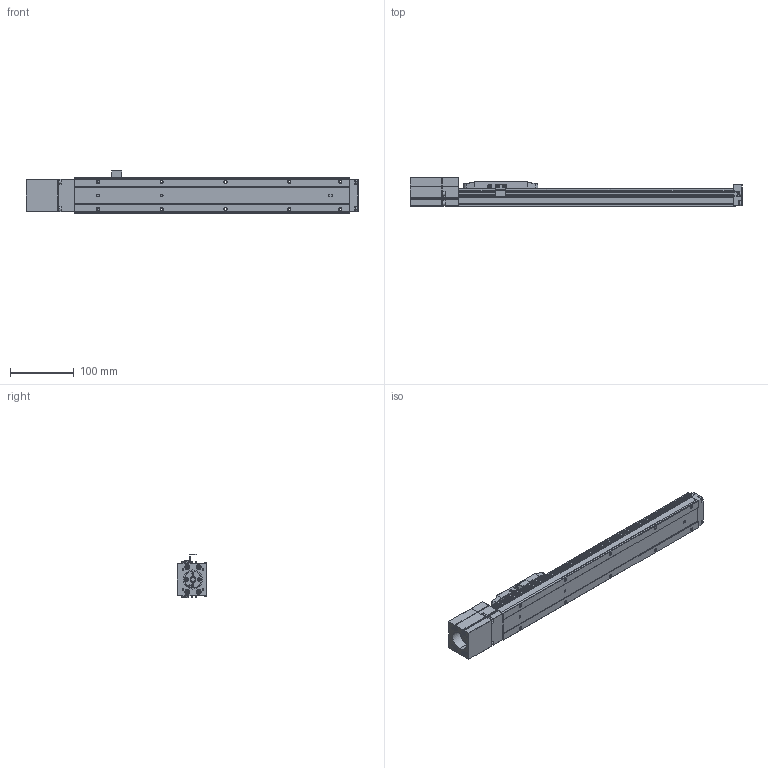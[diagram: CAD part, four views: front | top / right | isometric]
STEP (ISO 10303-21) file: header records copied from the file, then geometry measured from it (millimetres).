
FILE_DESCRIPTION (( 'STEP AP203' ), '1' );
FILE_NAME ('EFS-05E_P.STEP', '2025-07-17T06:12:29', ( '' ), ( '' ), 'SwSTEP 2.0', 'SolidWorks 2024', '' );
FILE_SCHEMA (( 'CONFIG_CONTROL_DESIGN' ));
Products named in the file (1): EFS-05E_P
Bounding box: 521 x 46 x 69 mm (x, y, z)
Volume: 817564.4 mm3; surface area: 171874.1 mm2
Topology: 25 solids, 29 shells, 1748 faces, 4387 edges, 2729 vertices
Faces by surface type: plane 709, cylinder 676, cone 202, torus 100, bspline 35, sphere 26
Entity records: 55089 total; most frequent: CARTESIAN_POINT 13401, DIRECTION 8812, ORIENTED_EDGE 8654, EDGE_CURVE 4327, AXIS2_PLACEMENT_3D 3247, VERTEX_POINT 2729, LINE 2318, VECTOR 2318
